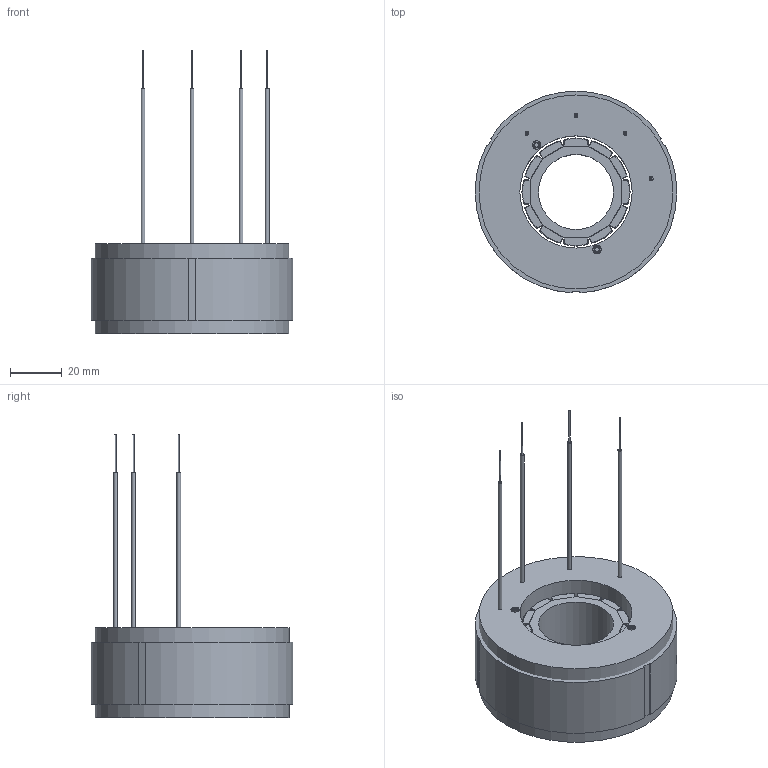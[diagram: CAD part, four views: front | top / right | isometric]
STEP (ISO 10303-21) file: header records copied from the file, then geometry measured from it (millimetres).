
FILE_DESCRIPTION(/* description */ ('Torque_QTR_78_34_Y_Kit_CAD_190315.stp'),/* implementation_level */ '2;1');
FILE_NAME(/* name */ 'Torque_QTR_78_34_Y_Kit_CAD_190315',/* time_stamp */ '2019-03-15T14:27:18+01:00',/* author */ ('Tecnotion'),/* organization */ ('Tecnotion'),/* preprocessor_version */ 'ST-DEVELOPER v16.7',/* originating_system */ 'DEX',/* authorisation */ $);
FILE_SCHEMA (('AUTOMOTIVE_DESIGN {1 0 10303 214 3 1 1}'));
Length unit declared in the file: millimetre
Products named in the file (2): 1084002_190314
Assembly tree (1 placements, depth 2):
  1084002_190314
    1084002_190314
Bounding box: 77.99 x 77.97 x 109.8 mm (x, y, z)
Surface area: 37816.1 mm2 (no closed solid volume)
Topology: 0 solids, 21 shells, 341 faces, 1156 edges, 734 vertices
Faces by surface type: plane 147, cylinder 116, bspline 28, sphere 24, torus 24, cone 2
Full cylindrical faces by diameter (mm): 0.6 x4, 1.5 x6, 1.65 x2, 3.2 x2, 29 x1, 43.4 x1, 75 x1
Entity records: 13883 total; most frequent: CARTESIAN_POINT 4736, DIRECTION 1749, ORIENTED_EDGE 1560, EDGE_CURVE 1109, VERTEX_POINT 732, AXIS2_PLACEMENT_3D 677, EDGE_LOOP 407, FACE_BOUND 407
